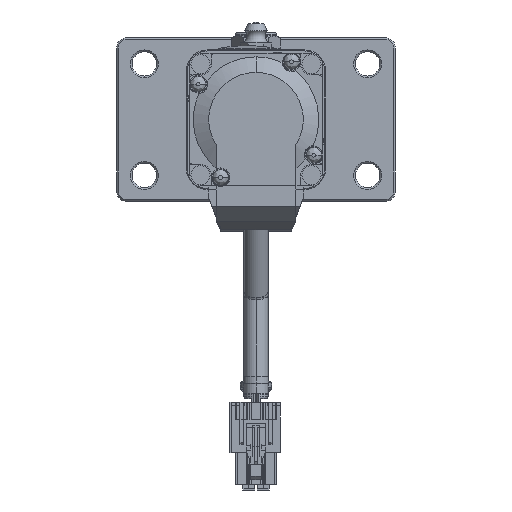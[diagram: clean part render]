
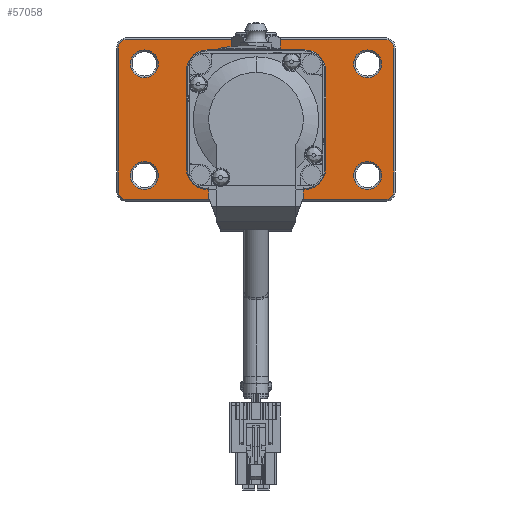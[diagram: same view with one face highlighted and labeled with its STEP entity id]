
A CAD part, front view. The second image highlights one B-rep face of the part: STEP entity #57058.
In plain terms, the highlighted planar face has unit normal (0, -1, 0).
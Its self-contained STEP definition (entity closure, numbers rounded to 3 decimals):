
#55641=CARTESIAN_POINT('',(0.,-5.,0.));
#55642=DIRECTION('',(0.,1.,0.));
#55643=DIRECTION('',(-1.,0.,0.));
#55644=AXIS2_PLACEMENT_3D('',#55641,#55642,#55643);
#55646=CARTESIAN_POINT('',(0.,-5.,0.));
#55647=DIRECTION('',(0.,1.,0.));
#55648=DIRECTION('',(1.,0.,0.));
#55649=AXIS2_PLACEMENT_3D('',#55646,#55647,#55648);
#55651=CARTESIAN_POINT('',(-32.,-5.,16.));
#55652=DIRECTION('',(0.,1.,0.));
#55653=DIRECTION('',(1.,0.,0.));
#55654=AXIS2_PLACEMENT_3D('',#55651,#55652,#55653);
#55656=CARTESIAN_POINT('',(-32.,-5.,16.));
#55657=DIRECTION('',(0.,1.,0.));
#55658=DIRECTION('',(-1.,0.,0.));
#55659=AXIS2_PLACEMENT_3D('',#55656,#55657,#55658);
#55661=CARTESIAN_POINT('',(32.,-5.,16.));
#55662=DIRECTION('',(0.,1.,0.));
#55663=DIRECTION('',(1.,0.,0.));
#55664=AXIS2_PLACEMENT_3D('',#55661,#55662,#55663);
#55666=CARTESIAN_POINT('',(32.,-5.,16.));
#55667=DIRECTION('',(0.,1.,0.));
#55668=DIRECTION('',(-1.,0.,0.));
#55669=AXIS2_PLACEMENT_3D('',#55666,#55667,#55668);
#55671=CARTESIAN_POINT('',(32.,-5.,-16.));
#55672=DIRECTION('',(0.,1.,0.));
#55673=DIRECTION('',(1.,0.,0.));
#55674=AXIS2_PLACEMENT_3D('',#55671,#55672,#55673);
#55676=CARTESIAN_POINT('',(32.,-5.,-16.));
#55677=DIRECTION('',(0.,1.,0.));
#55678=DIRECTION('',(-1.,0.,0.));
#55679=AXIS2_PLACEMENT_3D('',#55676,#55677,#55678);
#55681=CARTESIAN_POINT('',(-32.,-5.,-16.));
#55682=DIRECTION('',(0.,1.,0.));
#55683=DIRECTION('',(1.,0.,0.));
#55684=AXIS2_PLACEMENT_3D('',#55681,#55682,#55683);
#55686=CARTESIAN_POINT('',(-32.,-5.,-16.));
#55687=DIRECTION('',(0.,1.,0.));
#55688=DIRECTION('',(-1.,0.,0.));
#55689=AXIS2_PLACEMENT_3D('',#55686,#55687,#55688);
#55691=CARTESIAN_POINT('',(-37.,-5.,20.5));
#55692=DIRECTION('',(0.,-1.,0.));
#55693=DIRECTION('',(0.,0.,1.));
#55694=AXIS2_PLACEMENT_3D('',#55691,#55692,#55693);
#55696=DIRECTION('',(-1.,0.,0.));
#55697=VECTOR('',#55696,74.);
#55698=CARTESIAN_POINT('',(37.,-5.,
23.));
#55699=LINE('',#55698,#55697);
#55700=CARTESIAN_POINT('',(37.,-5.,20.5));
#55701=DIRECTION('',(0.,-1.,0.));
#55702=DIRECTION('',(1.,0.,0.));
#55703=AXIS2_PLACEMENT_3D('',#55700,#55701,#55702);
#55705=DIRECTION('',(0.,0.,1.));
#55706=VECTOR('',#55705,41.);
#55707=CARTESIAN_POINT('',(39.5,-5.,
-20.5));
#55708=LINE('',#55707,#55706);
#55709=CARTESIAN_POINT('',(37.,-5.,-20.5));
#55710=DIRECTION('',(0.,-1.,0.));
#55711=DIRECTION('',(0.,0.,-1.));
#55712=AXIS2_PLACEMENT_3D('',#55709,#55710,#55711);
#55714=DIRECTION('',(1.,0.,0.));
#55715=VECTOR('',#55714,74.);
#55716=CARTESIAN_POINT('',(-37.,-5.,
-23.));
#55717=LINE('',#55716,#55715);
#55718=CARTESIAN_POINT('',(-37.,-5.,-20.5));
#55719=DIRECTION('',(0.,-1.,0.));
#55720=DIRECTION('',(-1.,0.,0.));
#55721=AXIS2_PLACEMENT_3D('',#55718,#55719,#55720);
#55723=DIRECTION('',(0.,0.,-1.));
#55724=VECTOR('',#55723,41.);
#55725=CARTESIAN_POINT('',(-39.5,-5.,
20.5));
#55726=LINE('',#55725,#55724);
#55727=CARTESIAN_POINT('',(14.,-5.,-14.));
#55728=DIRECTION('',(0.,1.,0.));
#55729=DIRECTION('',(1.,0.,0.));
#55730=AXIS2_PLACEMENT_3D('',#55727,#55728,#55729);
#55732=CARTESIAN_POINT('',(14.,-5.,-14.));
#55733=DIRECTION('',(0.,1.,0.));
#55734=DIRECTION('',(-1.,0.,0.));
#55735=AXIS2_PLACEMENT_3D('',#55732,#55733,#55734);
#55737=CARTESIAN_POINT('',(-14.,-5.,-14.));
#55738=DIRECTION('',(0.,1.,0.));
#55739=DIRECTION('',(1.,0.,0.));
#55740=AXIS2_PLACEMENT_3D('',#55737,#55738,#55739);
#55742=CARTESIAN_POINT('',(-14.,-5.,-14.));
#55743=DIRECTION('',(0.,1.,0.));
#55744=DIRECTION('',(-1.,0.,0.));
#55745=AXIS2_PLACEMENT_3D('',#55742,#55743,#55744);
#55747=CARTESIAN_POINT('',(14.,-5.,14.));
#55748=DIRECTION('',(0.,1.,0.));
#55749=DIRECTION('',(1.,0.,0.));
#55750=AXIS2_PLACEMENT_3D('',#55747,#55748,#55749);
#55752=CARTESIAN_POINT('',(14.,-5.,14.));
#55753=DIRECTION('',(0.,1.,0.));
#55754=DIRECTION('',(-1.,0.,0.));
#55755=AXIS2_PLACEMENT_3D('',#55752,#55753,#55754);
#55757=CARTESIAN_POINT('',(-14.,-5.,14.));
#55758=DIRECTION('',(0.,1.,0.));
#55759=DIRECTION('',(1.,0.,0.));
#55760=AXIS2_PLACEMENT_3D('',#55757,#55758,#55759);
#55762=CARTESIAN_POINT('',(-14.,-5.,14.));
#55763=DIRECTION('',(0.,1.,0.));
#55764=DIRECTION('',(-1.,0.,0.));
#55765=AXIS2_PLACEMENT_3D('',#55762,#55763,#55764);
#56713=CARTESIAN_POINT('',(-14.5,-5.,0.));
#56714=CARTESIAN_POINT('',(14.5,-5.,0.));
#56715=VERTEX_POINT('',#56713);
#56716=VERTEX_POINT('',#56714);
#56757=CARTESIAN_POINT('',(-28.,-5.,16.));
#56758=CARTESIAN_POINT('',(-36.,-5.,16.));
#56759=VERTEX_POINT('',#56757);
#56760=VERTEX_POINT('',#56758);
#56765=CARTESIAN_POINT('',(36.,-5.,16.));
#56766=CARTESIAN_POINT('',(28.,-5.,16.));
#56767=VERTEX_POINT('',#56765);
#56768=VERTEX_POINT('',#56766);
#56773=CARTESIAN_POINT('',(36.,-5.,-16.));
#56774=CARTESIAN_POINT('',(28.,-5.,-16.));
#56775=VERTEX_POINT('',#56773);
#56776=VERTEX_POINT('',#56774);
#56781=CARTESIAN_POINT('',(-28.,-5.,-16.));
#56782=CARTESIAN_POINT('',(-36.,-5.,-16.));
#56783=VERTEX_POINT('',#56781);
#56784=VERTEX_POINT('',#56782);
#56789=CARTESIAN_POINT('',(-37.,-5.,23.));
#56790=CARTESIAN_POINT('',(-39.5,-5.,20.5));
#56791=VERTEX_POINT('',#56789);
#56792=VERTEX_POINT('',#56790);
#56797=CARTESIAN_POINT('',(-39.5,-5.,
-20.5));
#56798=VERTEX_POINT('',#56797);
#56801=CARTESIAN_POINT('',(-37.,-5.,-23.));
#56802=VERTEX_POINT('',#56801);
#56805=CARTESIAN_POINT('',(37.,-5.,
-23.));
#56806=VERTEX_POINT('',#56805);
#56809=CARTESIAN_POINT('',(39.5,-5.,-20.5));
#56810=VERTEX_POINT('',#56809);
#56813=CARTESIAN_POINT('',(39.5,-5.,
20.5));
#56814=VERTEX_POINT('',#56813);
#56817=CARTESIAN_POINT('',(37.,-5.,23.));
#56818=VERTEX_POINT('',#56817);
#56869=CARTESIAN_POINT('',(17.8,-5.,-14.));
#56870=CARTESIAN_POINT('',(10.2,-5.,-14.));
#56871=VERTEX_POINT('',#56869);
#56872=VERTEX_POINT('',#56870);
#56877=CARTESIAN_POINT('',(-10.2,-5.,-14.));
#56878=CARTESIAN_POINT('',(-17.8,-5.,-14.));
#56879=VERTEX_POINT('',#56877);
#56880=VERTEX_POINT('',#56878);
#56885=CARTESIAN_POINT('',(17.8,-5.,14.));
#56886=CARTESIAN_POINT('',(10.2,-5.,14.));
#56887=VERTEX_POINT('',#56885);
#56888=VERTEX_POINT('',#56886);
#56893=CARTESIAN_POINT('',(-10.2,-5.,14.));
#56894=CARTESIAN_POINT('',(-17.8,-5.,14.));
#56895=VERTEX_POINT('',#56893);
#56896=VERTEX_POINT('',#56894);
#56981=CARTESIAN_POINT('',(0.,-5.,0.));
#56982=DIRECTION('',(0.,1.,0.));
#56983=DIRECTION('',(1.,0.,0.));
#56984=AXIS2_PLACEMENT_3D('',#56981,#56982,#56983);
#56985=PLANE('',#56984);
#56987=ORIENTED_EDGE('',*,*,#56986,.F.);
#56989=ORIENTED_EDGE('',*,*,#56988,.F.);
#56991=ORIENTED_EDGE('',*,*,#56990,.F.);
#56993=ORIENTED_EDGE('',*,*,#56992,.F.);
#56995=ORIENTED_EDGE('',*,*,#56994,.F.);
#56997=ORIENTED_EDGE('',*,*,#56996,.F.);
#56999=ORIENTED_EDGE('',*,*,#56998,.F.);
#57001=ORIENTED_EDGE('',*,*,#57000,.F.);
#57002=EDGE_LOOP('',(#56987,#56989,#56991,#56993,#56995,#56997,#56999,#57001));
#57003=FACE_OUTER_BOUND('',#57002,.F.);
#57005=ORIENTED_EDGE('',*,*,#57004,.F.);
#57007=ORIENTED_EDGE('',*,*,#57006,.F.);
#57008=EDGE_LOOP('',(#57005,#57007));
#57009=FACE_BOUND('',#57008,.F.);
#57011=ORIENTED_EDGE('',*,*,#57010,.F.);
#57013=ORIENTED_EDGE('',*,*,#57012,.F.);
#57014=EDGE_LOOP('',(#57011,#57013));
#57015=FACE_BOUND('',#57014,.F.);
#57017=ORIENTED_EDGE('',*,*,#57016,.F.);
#57019=ORIENTED_EDGE('',*,*,#57018,.F.);
#57020=EDGE_LOOP('',(#57017,#57019));
#57021=FACE_BOUND('',#57020,.F.);
#57023=ORIENTED_EDGE('',*,*,#57022,.F.);
#57025=ORIENTED_EDGE('',*,*,#57024,.F.);
#57026=EDGE_LOOP('',(#57023,#57025));
#57027=FACE_BOUND('',#57026,.F.);
#57029=ORIENTED_EDGE('',*,*,#57028,.F.);
#57031=ORIENTED_EDGE('',*,*,#57030,.F.);
#57032=EDGE_LOOP('',(#57029,#57031));
#57033=FACE_BOUND('',#57032,.F.);
#57035=ORIENTED_EDGE('',*,*,#57034,.F.);
#57037=ORIENTED_EDGE('',*,*,#57036,.F.);
#57038=EDGE_LOOP('',(#57035,#57037));
#57039=FACE_BOUND('',#57038,.F.);
#57041=ORIENTED_EDGE('',*,*,#57040,.F.);
#57043=ORIENTED_EDGE('',*,*,#57042,.F.);
#57044=EDGE_LOOP('',(#57041,#57043));
#57045=FACE_BOUND('',#57044,.F.);
#57047=ORIENTED_EDGE('',*,*,#57046,.F.);
#57049=ORIENTED_EDGE('',*,*,#57048,.F.);
#57050=EDGE_LOOP('',(#57047,#57049));
#57051=FACE_BOUND('',#57050,.F.);
#57053=ORIENTED_EDGE('',*,*,#57052,.F.);
#57055=ORIENTED_EDGE('',*,*,#57054,.F.);
#57056=EDGE_LOOP('',(#57053,#57055));
#57057=FACE_BOUND('',#57056,.F.);
#57058=ADVANCED_FACE('',(#57003,#57009,#57015,#57021,#57027,#57033,#57039,
#57045,#57051,#57057),#56985,.F.);
#55645=CIRCLE('',#55644,14.5);
#55650=CIRCLE('',#55649,14.5);
#55655=CIRCLE('',#55654,4.);
#55660=CIRCLE('',#55659,4.);
#55665=CIRCLE('',#55664,4.);
#55670=CIRCLE('',#55669,4.);
#55675=CIRCLE('',#55674,4.);
#55680=CIRCLE('',#55679,4.);
#55685=CIRCLE('',#55684,4.);
#55690=CIRCLE('',#55689,4.);
#55695=CIRCLE('',#55694,2.5);
#55704=CIRCLE('',#55703,2.5);
#55713=CIRCLE('',#55712,2.5);
#55722=CIRCLE('',#55721,2.5);
#55731=CIRCLE('',#55730,3.8);
#55736=CIRCLE('',#55735,3.8);
#55741=CIRCLE('',#55740,3.8);
#55746=CIRCLE('',#55745,3.8);
#55751=CIRCLE('',#55750,3.8);
#55756=CIRCLE('',#55755,3.8);
#55761=CIRCLE('',#55760,3.8);
#55766=CIRCLE('',#55765,3.8);
#56986=EDGE_CURVE('',#56791,#56792,#55695,.T.);
#56988=EDGE_CURVE('',#56818,#56791,#55699,.T.);
#56990=EDGE_CURVE('',#56814,#56818,#55704,.T.);
#56992=EDGE_CURVE('',#56810,#56814,#55708,.T.);
#56994=EDGE_CURVE('',#56806,#56810,#55713,.T.);
#56996=EDGE_CURVE('',#56802,#56806,#55717,.T.);
#56998=EDGE_CURVE('',#56798,#56802,#55722,.T.);
#57000=EDGE_CURVE('',#56792,#56798,#55726,.T.);
#57004=EDGE_CURVE('',#56759,#56760,#55655,.T.);
#57006=EDGE_CURVE('',#56760,#56759,#55660,.T.);
#57010=EDGE_CURVE('',#56767,#56768,#55665,.T.);
#57012=EDGE_CURVE('',#56768,#56767,#55670,.T.);
#57016=EDGE_CURVE('',#56775,#56776,#55675,.T.);
#57018=EDGE_CURVE('',#56776,#56775,#55680,.T.);
#57022=EDGE_CURVE('',#56783,#56784,#55685,.T.);
#57024=EDGE_CURVE('',#56784,#56783,#55690,.T.);
#57028=EDGE_CURVE('',#56715,#56716,#55645,.T.);
#57030=EDGE_CURVE('',#56716,#56715,#55650,.T.);
#57034=EDGE_CURVE('',#56871,#56872,#55731,.T.);
#57036=EDGE_CURVE('',#56872,#56871,#55736,.T.);
#57040=EDGE_CURVE('',#56879,#56880,#55741,.T.);
#57042=EDGE_CURVE('',#56880,#56879,#55746,.T.);
#57046=EDGE_CURVE('',#56887,#56888,#55751,.T.);
#57048=EDGE_CURVE('',#56888,#56887,#55756,.T.);
#57052=EDGE_CURVE('',#56895,#56896,#55761,.T.);
#57054=EDGE_CURVE('',#56896,#56895,#55766,.T.);
